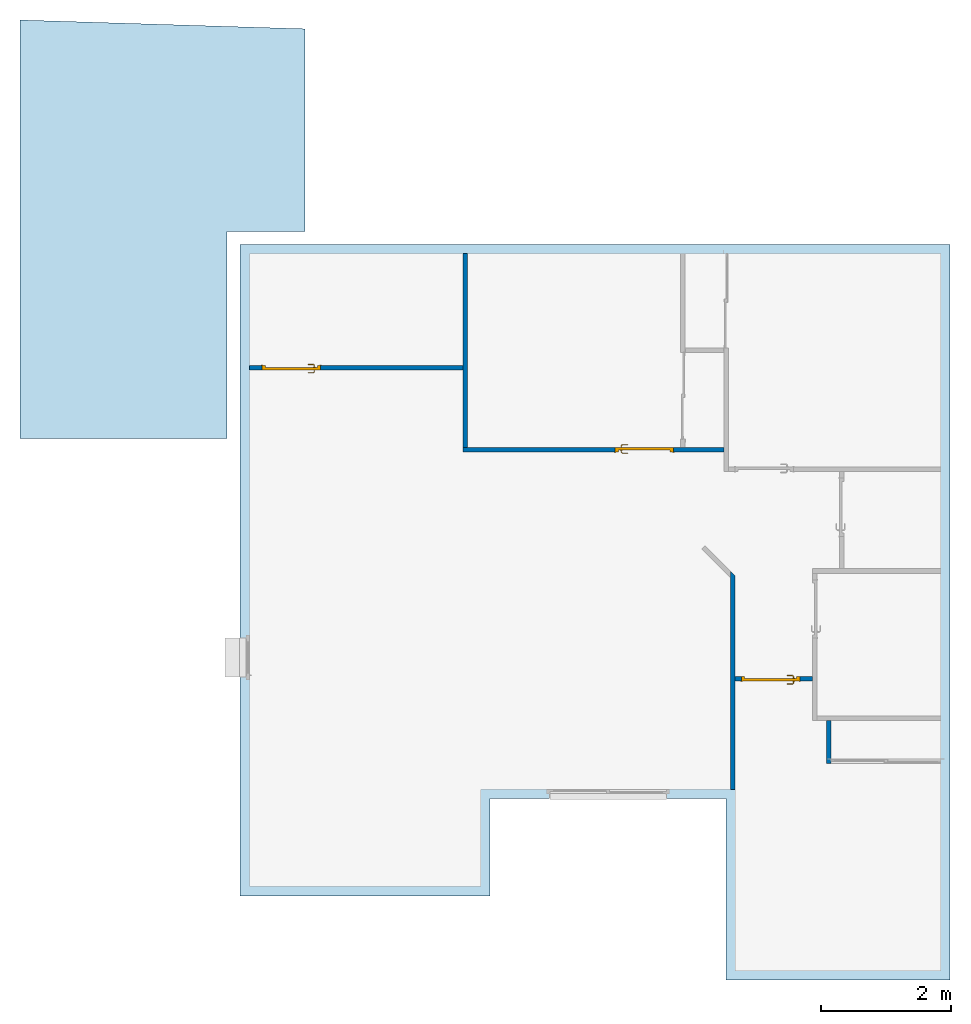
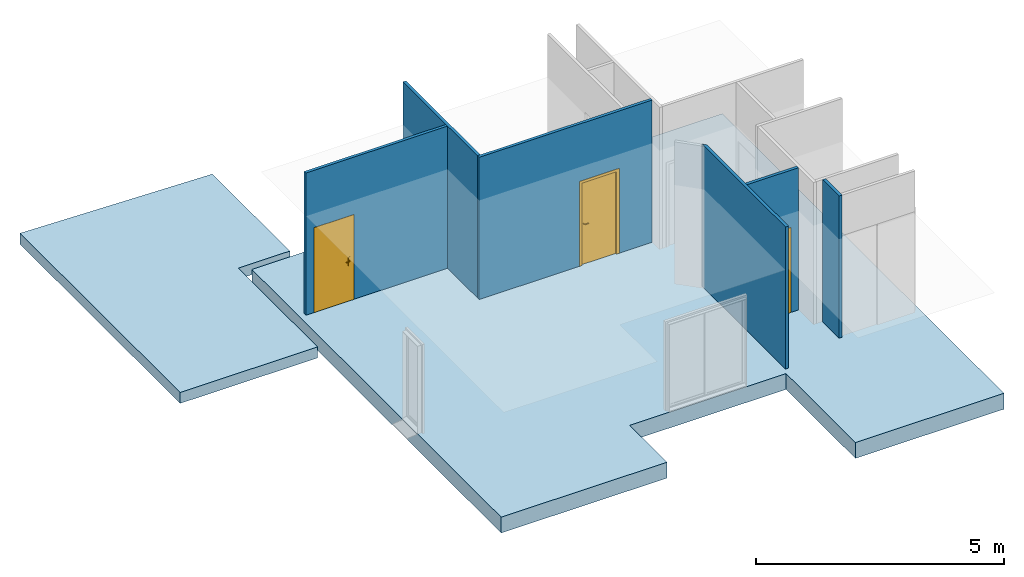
# One storey, part 1 of 7: 6 walls, 3 doors, 2 slabs, 6 openings.
"""IFC2X3 building model written with IfcOpenShell, lengths in centimetres."""

from ifc_helpers import new_model, entity, si_unit, converted_unit, derived_unit, direction, frame, frame_2d, origin, origin_2d_with_axis, place, context, subcontext, project, spatial, polyline, rectangle, outline, extrude, faceted_brep, source, transform, mapped, material, material_list, layer, layer_set, layer_usage, type_object, type_shapes, element, fill, save


model = new_model("IFC2X3")

# Units and contexts
model_context = context("Model", 3, precision=0.001, world=origin(), true_north=direction((6.123031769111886e-17, 1.0)))
body_context = subcontext(model_context, "Body", "Model", "MODEL_VIEW")
ifc_project = project(units=[si_unit("LENGTHUNIT", "METRE", prefix="CENTI"), si_unit("AREAUNIT", "SQUARE_METRE"), si_unit("VOLUMEUNIT", "CUBIC_METRE"), converted_unit("PLANEANGLEUNIT", "DEGREE", entity("IfcRatioMeasure", 0.017453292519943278), si_unit("PLANEANGLEUNIT", "RADIAN"), dimensions=[0, 0, 0, 0, 0, 0, 0]), si_unit("MASSUNIT", "GRAM", prefix="KILO"), derived_unit("MASSDENSITYUNIT", [(si_unit("MASSUNIT", "GRAM", prefix="KILO"), 1), (si_unit("LENGTHUNIT", "METRE"), -3)]), derived_unit("MOMENTOFINERTIAUNIT", [(si_unit("LENGTHUNIT", "METRE"), 4)]), si_unit("TIMEUNIT", "SECOND"), si_unit("FREQUENCYUNIT", "HERTZ"), si_unit("THERMODYNAMICTEMPERATUREUNIT", "DEGREE_CELSIUS"), derived_unit("THERMALTRANSMITTANCEUNIT", [(si_unit("MASSUNIT", "GRAM", prefix="KILO"), 1), (si_unit("THERMODYNAMICTEMPERATUREUNIT", "KELVIN"), -1), (si_unit("TIMEUNIT", "SECOND"), -3)]), derived_unit("THERMALCONDUCTANCEUNIT", [(si_unit("MASSUNIT", "GRAM", prefix="KILO"), 1), (si_unit("LENGTHUNIT", "METRE"), 1), (si_unit("THERMODYNAMICTEMPERATUREUNIT", "KELVIN"), -1), (si_unit("TIMEUNIT", "SECOND"), -3)]), derived_unit("VOLUMETRICFLOWRATEUNIT", [(si_unit("LENGTHUNIT", "METRE"), 3), (si_unit("TIMEUNIT", "SECOND"), -1)]), derived_unit("MASSFLOWRATEUNIT", [(si_unit("MASSUNIT", "GRAM", prefix="KILO"), 1), (si_unit("TIMEUNIT", "SECOND"), -1)]), derived_unit("ROTATIONALFREQUENCYUNIT", [(si_unit("TIMEUNIT", "SECOND"), -1)]), si_unit("ELECTRICCURRENTUNIT", "AMPERE"), si_unit("ELECTRICVOLTAGEUNIT", "VOLT"), si_unit("POWERUNIT", "WATT"), si_unit("FORCEUNIT", "NEWTON", prefix="KILO"), si_unit("ILLUMINANCEUNIT", "LUX"), si_unit("LUMINOUSFLUXUNIT", "LUMEN"), si_unit("LUMINOUSINTENSITYUNIT", "CANDELA"), derived_unit("USERDEFINED", [(si_unit("MASSUNIT", "GRAM", prefix="KILO"), -1), (si_unit("LENGTHUNIT", "METRE"), -2), (si_unit("TIMEUNIT", "SECOND"), 3), (si_unit("LUMINOUSFLUXUNIT", "LUMEN"), 1)]), derived_unit("USERDEFINED", [(si_unit("MASSUNIT", "GRAM", prefix="KILO"), 1), (si_unit("LENGTHUNIT", "METRE"), 3), (si_unit("TIMEUNIT", "SECOND"), -3), (si_unit("ELECTRICCURRENTUNIT", "AMPERE"), -2)]), derived_unit("USERDEFINED", [(si_unit("LENGTHUNIT", "METRE"), 2), (si_unit("TIMEUNIT", "SECOND"), -2)]), derived_unit("SOUNDPOWERUNIT", [(si_unit("MASSUNIT", "GRAM", prefix="KILO"), 1), (si_unit("LENGTHUNIT", "METRE"), 2), (si_unit("TIMEUNIT", "SECOND"), -3)]), derived_unit("SOUNDPRESSUREUNIT", [(si_unit("MASSUNIT", "GRAM", prefix="KILO"), 1), (si_unit("LENGTHUNIT", "METRE"), -1), (si_unit("TIMEUNIT", "SECOND"), -2)]), derived_unit("LINEARVELOCITYUNIT", [(si_unit("LENGTHUNIT", "METRE"), 1), (si_unit("TIMEUNIT", "SECOND"), -1)]), si_unit("PRESSUREUNIT", "PASCAL"), derived_unit("USERDEFINED", [(si_unit("LENGTHUNIT", "METRE"), -2), (si_unit("MASSUNIT", "GRAM", prefix="KILO"), 1), (si_unit("TIMEUNIT", "SECOND"), -2)]), derived_unit("LINEARFORCEUNIT", [(si_unit("MASSUNIT", "GRAM", prefix="KILO"), 1), (si_unit("LENGTHUNIT", "METRE"), 1), (si_unit("TIMEUNIT", "SECOND"), -2), (si_unit("LENGTHUNIT", "METRE"), -1)]), derived_unit("PLANARFORCEUNIT", [(si_unit("MASSUNIT", "GRAM", prefix="KILO"), 1), (si_unit("LENGTHUNIT", "METRE"), 1), (si_unit("TIMEUNIT", "SECOND"), -2), (si_unit("LENGTHUNIT", "METRE"), -2)]), derived_unit("SPECIFICHEATCAPACITYUNIT", [(si_unit("LENGTHUNIT", "METRE"), 2), (si_unit("TIMEUNIT", "SECOND"), -2), (si_unit("THERMODYNAMICTEMPERATUREUNIT", "KELVIN"), -1)]), derived_unit("VAPORPERMEABILITYUNIT", [(si_unit("TIMEUNIT", "SECOND"), 1), (si_unit("LENGTHUNIT", "METRE"), -1)]), derived_unit("DYNAMICVISCOSITYUNIT", [(si_unit("MASSUNIT", "GRAM", prefix="KILO"), 1), (si_unit("LENGTHUNIT", "METRE"), -1), (si_unit("TIMEUNIT", "SECOND"), -1)]), derived_unit("THERMALEXPANSIONCOEFFICIENTUNIT", [(si_unit("THERMODYNAMICTEMPERATUREUNIT", "KELVIN"), -1)])], contexts=[model_context])

# Site, building, storey
site_placement = place(None, origin())
site = spatial("IfcSite", under=ifc_project, at=site_placement, Name="Default", CompositionType="ELEMENT")
building_placement = place(site_placement, origin())
building = spatial("IfcBuilding", under=site, at=building_placement, CompositionType="ELEMENT")
storey_placement = place(building_placement, origin())
storey = spatial("IfcBuildingStorey", under=building, at=storey_placement, Name="1_Rez-de-chaussée", CompositionType="ELEMENT", Elevation=0.0)

# Slab
ifc_material_1 = material(Name="Maçonnerie - Béton")
ifc_layer_1 = layer(ifc_material_1, 12.0)
ifc_material_2 = material(Name="Terre")
ifc_layer_2 = layer(ifc_material_2, 15.0)
ifc_layer_set_1 = layer_set([ifc_layer_1, ifc_layer_2], Name="Sol:Dallage partie garage")
ifc_layer_usage_1 = layer_usage(ifc_layer_set_1, "AXIS3", "POSITIVE", 0.0)
slab_type_1 = type_object("IfcSlabType", Name="Sol:Dallage partie garage", PredefinedType="FLOOR", material=ifc_layer_set_1)
slab_1_placement = place(storey_placement, origin())
element("IfcSlab", 1, at=slab_1_placement, inside=storey, type_object=slab_type_1, material=ifc_layer_usage_1, Name="Sol:Dallage partie garage", ObjectType="Sol:Dallage partie garage", PredefinedType="FLOOR", context=body_context, shape_type="SweptSolid", body=[
    extrude(outline(polyline([(-319.8298123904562, -253.3333333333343), (326.477806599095, -253.3333333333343), (312.84144296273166, 186.66666666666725), (0.1701876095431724, 186.66666666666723), (0.17018760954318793, 66.66666666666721), (-319.8298123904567, 66.66666666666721), (-319.8298123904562, -253.3333333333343)])), frame((-786.7351104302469, 376.4764582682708, -2.0), z_axis=(0.0, 0.0, -1.0), x_axis=(0.0, 1.0, 0.0)), (0.0, 0.0, 1.0), 27.0),
])

# Slab, openings
ifc_layer_3 = layer(ifc_material_1, 12.0)
ifc_material_3 = material(Name="Isolant rigide")
ifc_layer_4 = layer(ifc_material_3, 10.0)
ifc_material_4 = material(Name="Sable")
ifc_layer_5 = layer(ifc_material_4, 5.0)
ifc_material_5 = material(Name="Gravier")
ifc_layer_6 = layer(ifc_material_5, 12.0)
ifc_layer_set_2 = layer_set([ifc_layer_3, ifc_layer_4, ifc_layer_5, ifc_layer_6], Name="Sol:Dallage partie habitation")
ifc_layer_usage_2 = layer_usage(ifc_layer_set_2, "AXIS3", "POSITIVE", 0.0)
slab_type_2 = type_object("IfcSlabType", Name="Sol:Dallage partie habitation", PredefinedType="FLOOR", material=ifc_layer_set_2)
slab_2_placement = place(storey_placement, origin())
slab_2 = element("IfcSlab", 2, at=slab_2_placement, inside=storey, type_object=slab_type_2, material=ifc_layer_usage_2, Name="Sol:Dallage partie habitation", ObjectType="Sol:Dallage partie habitation", PredefinedType="FLOOR", context=body_context, shape_type="SweptSolid", body=[
    extrude(outline(polyline([(-548.0, 568.0), (-548.0, -568.0), (-202.0, -568.0), (-202.0, -288.0), (162.0, -288.0), (162.0, -438.0), (548.0, -438.0), (548.0, 568.0), (-548.0, 568.0)])), frame((-152.06844376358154, -211.3533541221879, 0.0), z_axis=(0.0, 0.0, -1.0), x_axis=(-1.0, 0.0, 0.0)), (0.0, 0.0, 1.0), 39.0),
])
opening_1_placement = place(slab_2_placement, frame((39.93155623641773, 46.64664587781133, 0.0)))
element("IfcOpeningElement", 3, at=opening_1_placement, cuts=slab_2, Name="Sol:Dallage partie habitation:2", ObjectType="Opening", context=body_context, shape_type="SweptSolid", body=[
    extrude(rectangle(XDim=15.000000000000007, YDim=15.000000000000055, at=origin_2d_with_axis()), frame((0.0, 0.0, 0.0), z_axis=(0.0, 0.0, -1.0), x_axis=(0.0, -1.0, 0.0)), (0.0, 0.0, 1.0), 39.0),
])
opening_2_placement = place(slab_2_placement, frame((-304.06844376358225, 46.64664587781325, 0.0)))
element("IfcOpeningElement", 4, at=opening_2_placement, cuts=slab_2, Name="Sol:Dallage partie habitation:3", ObjectType="Opening", context=body_context, shape_type="SweptSolid", body=[
    extrude(rectangle(XDim=15.000000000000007, YDim=15.000000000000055, at=origin_2d_with_axis()), frame((0.0, 0.0, 0.0), z_axis=(0.0, 0.0, -1.0), x_axis=(0.0, -1.0, 0.0)), (0.0, 0.0, 1.0), 39.0),
])

# Wall
ifc_material_6 = material(Name="Mur par défaut")
ifc_layer_7 = layer(ifc_material_6, 7.0)
ifc_layer_set_3 = layer_set([ifc_layer_7], Name="Mur de base:Int. plâtre 70 mm")
ifc_layer_usage_3 = layer_usage(ifc_layer_set_3, "AXIS2", "NEGATIVE", 3.4999999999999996)
wall_type = type_object("IfcWallType", Name="Mur de base:Int. plâtre 70 mm", PredefinedType="STANDARD", material=ifc_layer_set_3)
wall_1_placement = place(storey_placement, frame((-352.56844376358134, 342.6466458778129, 0.0), z_axis=(0.0, 0.0, 1.0), x_axis=(0.0, -1.0, 0.0)))
element("IfcWallStandardCase", 5, at=wall_1_placement, inside=storey, type_object=wall_type, material=ifc_layer_usage_3, Name="Mur de base:Int. plâtre 70 mm", ObjectType="Mur de base:Int. plâtre 70 mm", context=body_context, shape_type="SweptSolid", body=[
    extrude(rectangle(XDim=300.0000000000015, YDim=7.000000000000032, at=frame_2d((150.00000000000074, -6.439293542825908e-15), x_axis=(-1.0, 0.0))), origin(), (0.0, 0.0, 1.0), 350.0),
])

# Wall, opening, door
wall_2_placement = place(storey_placement, frame((-356.0684437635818, 39.146645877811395, 0.0)))
wall_2 = element("IfcWallStandardCase", 6, at=wall_2_placement, inside=storey, type_object=wall_type, material=ifc_layer_usage_3, Name="Mur de base:Int. plâtre 70 mm", ObjectType="Mur de base:Int. plâtre 70 mm", context=body_context, shape_type="SweptSolid", body=[
    extrude(rectangle(XDim=403.0000000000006, YDim=7.000000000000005, at=frame_2d((201.5000000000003, -1.7763568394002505e-15), x_axis=(-1.0, 0.0))), origin(), (0.0, 0.0, 1.0), 350.0),
])
opening_3_placement = place(wall_2_placement, frame((235.0, -3.50000000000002, 0.0)))
opening_3 = element("IfcOpeningElement", 7, at=opening_3_placement, cuts=wall_2, Name="Int. Simple:PP (0.83m x 2.04m):1", ObjectType="Opening", context=body_context, shape_type="SweptSolid", body=[
    extrude(rectangle(XDim=207.49999999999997, YDim=90.0, at=frame_2d((103.74999999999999, 45.0), x_axis=(1.0, 0.0))), frame((0.0, 0.0, 0.0), z_axis=(0.0, 1.0, 0.0), x_axis=(0.0, 0.0, 1.0)), (0.0, 0.0, 1.0), 6.999999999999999),
])
ifc_material_7 = material(Name="Finition Peinture - Blanc satiné")
ifc_material_8 = material(Name="Bois - Panneau de porte")
ifc_material_9 = material(Name="Bois - Cadre de porte")
ifc_material_list = material_list([ifc_material_7, ifc_material_8, ifc_material_9])
door_style = type_object("IfcDoorStyle", Name="Int. Simple:PP (0.83m x 2.04m)", ConstructionType="NOTDEFINED", OperationType="NOTDEFINED", ParameterTakesPrecedence=False, Sizeable=False, material=ifc_material_list)
shared_shape = source(origin(), body_context, "Body", "Brep", [
    faceted_brep([(89.50000000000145, -0.5000000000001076, 87.0), (89.50000000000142, -0.5000000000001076, 108.0), (88.53527618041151, -0.5000000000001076, 108.39960169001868), (87.50000000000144, -0.5000000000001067, 108.5358983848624), (86.46472381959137, -0.5000000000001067, 108.39960169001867), (85.5000000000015, -0.5000000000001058, 108.0), (85.50000000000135, -0.5000000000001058, 87.0), (86.46472381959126, -0.5000000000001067, 86.6003983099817), (87.50000000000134, -0.5000000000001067, 86.46410161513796), (88.5352761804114, -0.5000000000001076, 86.6003983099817), (89.50000000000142, 0.0, 108.0), (89.5000000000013, 0.0, 87.0), (88.5352761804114, 0.0, 86.6003983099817), (87.50000000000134, 0.0, 86.46410161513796), (86.46472381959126, 0.0, 86.6003983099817), (85.50000000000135, 0.0, 87.0), (85.50000000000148, 0.0, 108.0), (86.46472381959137, 0.0, 108.39960169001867), (87.50000000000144, 0.0, 108.5358983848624), (88.53527618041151, 0.0, 108.39960169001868)], [[[0, 1, 2, 3, 4, 5, 6, 7, 8, 9]], [[10, 11, 12, 13, 14, 15, 16, 17, 18, 19]], [[9, 12, 11, 0]], [[8, 13, 12, 9]], [[7, 14, 13, 8]], [[7, 6, 15, 14]], [[15, 6, 5, 16]], [[4, 17, 16, 5]], [[3, 18, 17, 4]], [[2, 19, 18, 3]], [[2, 1, 10, 19]], [[11, 10, 1, 0]]]),
    faceted_brep([(89.50000000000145, 4.0, 87.0), (89.50000000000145, 4.0, 108.0), (88.53527618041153, 4.0, 108.39960169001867), (87.50000000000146, 4.0, 108.5358983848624), (86.4647238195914, 4.0, 108.39960169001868), (85.50000000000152, 4.0, 108.0), (85.50000000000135, 4.0, 87.0), (86.46472381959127, 4.0, 86.6003983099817), (87.50000000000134, 4.0, 86.46410161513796), (88.5352761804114, 4.0, 86.60039830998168), (87.50000000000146, 4.499999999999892, 108.5358983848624), (88.53527618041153, 4.499999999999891, 108.39960169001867), (89.50000000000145, 4.499999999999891, 108.0), (89.5000000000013, 4.499999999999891, 87.0), (88.5352761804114, 4.499999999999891, 86.60039830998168), (87.50000000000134, 4.499999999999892, 86.46410161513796), (86.46472381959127, 4.4999999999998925, 86.6003983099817), (85.50000000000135, 4.4999999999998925, 87.0), (85.5000000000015, 4.4999999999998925, 108.0), (86.4647238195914, 4.4999999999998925, 108.39960169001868)], [[[0, 1, 2, 3, 4, 5, 6, 7, 8, 9]], [[10, 11, 12, 13, 14, 15, 16, 17, 18, 19]], [[4, 19, 18, 5]], [[3, 10, 19, 4]], [[2, 11, 10, 3]], [[2, 1, 12, 11]], [[13, 12, 1, 0]], [[9, 14, 13, 0]], [[8, 15, 14, 9]], [[7, 16, 15, 8]], [[7, 6, 17, 16]], [[17, 6, 5, 18]]]),
    faceted_brep([(87.2974701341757, -0.5000000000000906, 100.77804408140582), (87.7025298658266, -0.5000000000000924, 100.77804408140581), (88.1000000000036, -0.500000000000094, 100.69999999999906), (88.10000000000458, -0.500000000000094, 99.29999999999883), (87.70252986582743, -0.5000000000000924, 99.221955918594), (87.2974701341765, -0.5000000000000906, 99.22195591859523), (86.89999999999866, -0.5000000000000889, 99.30000000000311), (86.89999999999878, -0.5000000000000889, 100.69999999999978), (87.70252986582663, -3.100457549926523, 100.77804408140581), (88.10000000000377, -3.265095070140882, 100.69999999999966), (87.29747013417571, -2.932676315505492, 100.77804408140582), (85.92986024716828, -4.300286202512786, 100.77804408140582), (86.09764148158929, -4.705345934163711, 100.77804408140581), (86.89999999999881, -2.768038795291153, 100.69999999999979), (86.89999999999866, -2.7680387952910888, 99.30000000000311), (87.2974701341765, -2.93267631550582, 99.22195591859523), (87.70252986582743, -3.1004575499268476, 99.221955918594), (86.09764148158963, -4.7053459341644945, 99.221955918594), (85.92986024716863, -4.300286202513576, 99.22195591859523), (88.10000000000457, -3.2650950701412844, 99.29999999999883), (86.26227900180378, -5.102816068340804, 100.69999999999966), (85.76522272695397, -3.902816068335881, 100.69999999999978), (85.76522272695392, -3.902816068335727, 99.30000000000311), (86.26227900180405, -5.102816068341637, 99.29999999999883), (77.49813593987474, -5.102816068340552, 100.6999999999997), (77.49813593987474, -4.705345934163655, 100.77804408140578), (77.49813593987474, -4.30028620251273, 100.7780440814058), (77.49813593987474, -3.902816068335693, 100.69999999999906), (77.49813593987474, -3.902816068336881, 99.30000000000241), (77.49813593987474, -4.300286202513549, 99.2219559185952), (77.49813593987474, -4.705345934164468, 99.22195591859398), (77.49813593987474, -5.1028160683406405, 99.29999999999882), (81.71399809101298, -4.502816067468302, 100.7878686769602), (82.26923027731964, -5.102816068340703, 100.69999999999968), (81.63167933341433, -3.902816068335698, 100.6999999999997), (81.63167933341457, -3.902816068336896, 99.30000000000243), (81.71399811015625, -4.502816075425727, 99.21213132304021), (82.26923104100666, -5.102816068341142, 99.29999999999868)], [[[0, 1, 2, 3, 4, 5, 6, 7]], [[2, 1, 8, 9]], [[1, 0, 10, 11, 12, 8]], [[0, 7, 13, 10]], [[14, 13, 7, 6]], [[5, 15, 14, 6]], [[5, 4, 16, 17, 18, 15]], [[3, 19, 16, 4]], [[9, 19, 3, 2]], [[9, 8, 12, 20]], [[10, 13, 21, 11]], [[22, 21, 13, 14]], [[14, 15, 18, 22]], [[16, 19, 23, 17]], [[20, 23, 19, 9]], [[24, 25, 26, 27, 28, 29, 30, 31]], [[32, 25, 33]], [[33, 25, 24]], [[33, 20, 12]], [[11, 34, 32]], [[34, 11, 21]], [[27, 26, 34]], [[32, 26, 25]], [[32, 34, 26]], [[32, 33, 12]], [[11, 32, 12]], [[21, 22, 35, 28, 27, 34]], [[36, 29, 35]], [[30, 36, 37]], [[18, 35, 22]], [[29, 28, 35]], [[30, 37, 31]], [[37, 17, 23]], [[36, 17, 37]], [[36, 18, 17]], [[36, 35, 18]], [[29, 36, 30]], [[23, 20, 33, 24, 31, 37]]]),
    faceted_brep([(87.29747013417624, 4.499999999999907, 99.22195591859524), (87.70252986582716, 4.499999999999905, 99.22195591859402), (88.1000000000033, 4.499999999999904, 99.29999999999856), (88.10000000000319, 4.499999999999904, 100.69999999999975), (87.70252986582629, 4.499999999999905, 100.77804408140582), (87.29747013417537, 4.499999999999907, 100.77804408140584), (86.89999999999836, 4.499999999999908, 100.69999999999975), (86.89999999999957, 4.499999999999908, 99.30000000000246), (86.89999999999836, 6.748520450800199, 100.69999999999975), (86.89999999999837, 6.748520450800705, 99.30000000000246), (87.29747013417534, 6.913157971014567, 100.77804408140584), (87.70252986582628, 7.0809392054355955, 100.77804408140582), (86.08389061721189, 8.69957845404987, 100.77804408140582), (85.91610938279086, 8.294518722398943, 100.77804408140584), (88.10000000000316, 7.245576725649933, 100.69999999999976), (88.1000000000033, 7.245576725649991, 99.29999999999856), (87.70252986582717, 7.080939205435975, 99.22195591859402), (87.29747013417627, 6.91315797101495, 99.22195591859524), (85.91610938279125, 8.29451872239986, 99.22195591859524), (86.08389061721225, 8.699578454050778, 99.22195591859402), (85.75147186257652, 7.897048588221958, 100.69999999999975), (85.75147186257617, 7.897048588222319, 99.30000000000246), (86.2485281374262, 9.097048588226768, 100.69999999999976), (86.24852813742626, 9.09704858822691, 99.29999999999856), (77.49542163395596, 8.294518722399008, 100.77804408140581), (77.49542163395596, 8.699578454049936, 100.7780440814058), (77.49542163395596, 9.097048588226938, 100.69999999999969), (77.49542163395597, 9.097048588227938, 99.29999999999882), (77.49542163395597, 8.699578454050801, 99.22195591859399), (77.49542163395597, 8.29451872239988, 99.22195591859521), (77.49542163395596, 7.897048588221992, 99.30000000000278), (77.49542163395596, 7.8970485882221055, 100.69999999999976), (81.62344674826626, 7.897048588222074, 100.69999999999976), (81.62344794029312, 7.89704858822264, 99.3000000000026), (81.70576551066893, 8.497048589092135, 100.78786867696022), (82.25547942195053, 9.097048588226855, 100.69999999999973), (82.25547956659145, 9.097048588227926, 99.29999999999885), (81.70576548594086, 8.497048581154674, 99.21213132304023)], [[[0, 1, 2, 3, 4, 5, 6, 7]], [[8, 9, 7, 6]], [[5, 10, 8, 6]], [[5, 4, 11, 12, 13, 10]], [[3, 14, 11, 4]], [[14, 3, 2, 15]], [[2, 1, 16, 15]], [[1, 0, 17, 18, 19, 16]], [[0, 7, 9, 17]], [[20, 21, 9, 8]], [[8, 10, 13, 20]], [[14, 22, 12, 11]], [[23, 22, 14, 15]], [[15, 16, 19, 23]], [[17, 9, 21, 18]], [[24, 25, 26, 27, 28, 29, 30, 31]], [[21, 20, 32, 31, 30, 33]], [[34, 24, 32]], [[25, 34, 35]], [[13, 32, 20]], [[24, 31, 32]], [[25, 35, 26]], [[35, 12, 22]], [[34, 12, 35]], [[34, 13, 12]], [[34, 32, 13]], [[24, 34, 25]], [[22, 23, 36, 27, 26, 35]], [[37, 28, 36]], [[36, 28, 27]], [[36, 23, 19]], [[18, 33, 37]], [[33, 18, 21]], [[30, 29, 33]], [[37, 29, 28]], [[37, 33, 29]], [[37, 36, 19]], [[18, 37, 19]]]),
    faceted_brep([(93.50000000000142, 4.0, 204.0), (93.50000000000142, 4.0, 0.0), (10.500000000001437, 4.0, 0.0), (10.50000000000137, 4.0, 204.0), (93.50000000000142, 0.0, 204.0), (10.50000000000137, 0.0, 204.0), (10.500000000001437, 0.0, 0.0), (93.50000000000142, 0.0, 0.0)], [[[0, 1, 2, 3]], [[4, 5, 6, 7]], [[3, 5, 4, 0]], [[2, 6, 5, 3]], [[1, 7, 6, 2]], [[0, 4, 7, 1]]]),
    faceted_brep([(97.0, 0.0, 0.0), (93.50000000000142, 0.0, 0.0), (93.50000000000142, 4.0, 0.0), (92.0, 4.0, 0.0), (92.0, 7.0, 0.0), (97.0, 7.0, 0.0), (97.0, 7.0, 207.5000000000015), (97.0, 0.0, 207.50000000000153), (92.0, 7.0, 202.4999999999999), (12.0, 7.0, 202.4999999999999), (12.0, 7.0, 0.0), (7.0, 7.0, 0.0), (7.0, 7.0, 207.5000000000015), (92.0, 4.0, 202.4999999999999), (93.50000000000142, 4.0, 204.0), (10.500000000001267, 4.0, 204.0), (10.50000000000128, 4.0, 0.0), (12.0, 4.0, 0.0), (12.0, 4.0, 202.4999999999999), (93.5000000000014, 0.0, 204.0), (7.0, 0.0, 207.50000000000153), (7.0, 0.0, 0.0), (10.500000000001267, 0.0, 0.0), (10.500000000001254, 0.0, 204.0)], [[[0, 1, 2, 3, 4, 5]], [[5, 6, 7, 0]], [[4, 8, 9, 10, 11, 12, 6, 5]], [[3, 13, 8, 4]], [[2, 14, 15, 16, 17, 18, 13, 3]], [[1, 19, 14, 2]], [[0, 7, 20, 21, 22, 23, 19, 1]], [[12, 11, 21, 20]], [[21, 11, 10, 17, 16, 22]], [[18, 17, 10, 9]], [[23, 22, 16, 15]], [[6, 12, 20, 7]], [[13, 18, 9, 8]], [[19, 23, 15, 14]]]),
    faceted_brep([(95.5000000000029, 7.0, 0.0), (95.5000000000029, 7.499999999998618, 0.0), (98.50000000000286, 7.499999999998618, 0.0), (98.50000000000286, 7.0, 0.0), (98.50000000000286, 7.0, 209.0), (5.5000000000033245, 7.0, 209.0), (5.5000000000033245, 7.0, 0.0), (8.500000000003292, 7.0, 0.0), (8.500000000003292, 7.0, 206.0), (95.5000000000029, 7.0, 206.0), (98.50000000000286, 7.499999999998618, 209.0), (95.5000000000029, 7.499999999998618, 206.0), (8.500000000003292, 7.499999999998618, 206.0), (8.500000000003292, 7.499999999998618, 0.0), (5.5000000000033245, 7.499999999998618, 0.0), (5.5000000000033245, 7.499999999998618, 209.0)], [[[0, 1, 2, 3]], [[3, 4, 5, 6, 7, 8, 9, 0]], [[2, 10, 4, 3]], [[1, 11, 12, 13, 14, 15, 10, 2]], [[0, 9, 11, 1]], [[7, 6, 14, 13]], [[8, 7, 13, 12]], [[15, 14, 6, 5]], [[10, 15, 5, 4]], [[9, 8, 12, 11]]]),
    faceted_brep([(98.50000000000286, -0.5000000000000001, 0.0), (98.50000000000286, -0.5000000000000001, 209.0), (5.5000000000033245, -0.5000000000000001, 209.0), (5.5000000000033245, -0.5000000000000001, 0.0), (8.500000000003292, -0.5000000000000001, 0.0), (8.500000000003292, -0.5000000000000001, 206.0), (95.5000000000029, -0.5000000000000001, 206.0), (95.5000000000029, -0.5000000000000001, 0.0), (98.50000000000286, 0.0, 0.0), (98.50000000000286, 0.0, 209.0), (95.5000000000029, 0.0, 0.0), (95.5000000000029, 0.0, 206.0), (8.500000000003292, 0.0, 206.0), (8.500000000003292, 0.0, 0.0), (5.5000000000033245, 0.0, 0.0), (5.5000000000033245, 0.0, 209.0)], [[[0, 1, 2, 3, 4, 5, 6, 7]], [[8, 9, 1, 0]], [[10, 11, 12, 13, 14, 15, 9, 8]], [[7, 6, 11, 10]], [[5, 4, 13, 12]], [[15, 14, 3, 2]], [[9, 15, 2, 1]], [[6, 5, 12, 11]], [[4, 3, 14, 13]], [[7, 10, 8, 0]]]),
])
type_shapes(door_style, [shared_shape])
door_1_placement = place(opening_3_placement, frame((97.0, 7.0, 0.0), z_axis=(0.0, 0.0, 1.0), x_axis=(-1.0, 0.0, 0.0)))
door_1 = element("IfcDoor", 8, at=door_1_placement, inside=storey, type_object=door_style, material=ifc_material_list, Name="Int. Simple:PP (0.83m x 2.04m)", ObjectType="Int. Simple:PP (0.83m x 2.04m)", OverallHeight=207.49999999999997, OverallWidth=90.0, context=body_context, shape_type="MappedRepresentation", body=[
    mapped(shared_shape, transform((0.0, 0.0, 0.0), scale=1.0)),
])
fill(opening_3, door_1)

# Wall
wall_3_placement = place(storey_placement, frame((60.431556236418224, -148.50916235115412, 0.0), z_axis=(0.0, 0.0, 1.0), x_axis=(0.0, -1.0, 0.0)))
element("IfcWallStandardCase", 9, at=wall_3_placement, inside=storey, type_object=wall_type, material=ifc_layer_usage_3, Name="Mur de base:Int. plâtre 70 mm", ObjectType="Mur de base:Int. plâtre 70 mm", context=body_context, shape_type="SweptSolid", body=[
    extrude(outline(polyline([(336.84419177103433, -3.499999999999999), (336.84419177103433, 3.5000000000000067), (169.34419177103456, 3.500000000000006), (162.3441917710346, 3.5000000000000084), (7.0, 3.500000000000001), (0.0, -3.499999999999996), (9.899494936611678, -3.4999999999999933), (336.84419177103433, -3.499999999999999)])), origin(), (0.0, 0.0, 1.0), 350.0),
])

# Wall, opening, door
wall_4_placement = place(storey_placement, frame((183.9315562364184, -314.35335412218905, 0.0), z_axis=(0.0, 0.0, 1.0), x_axis=(-1.0, 0.0, 0.0)))
wall_4 = element("IfcWallStandardCase", 10, at=wall_4_placement, inside=storey, type_object=wall_type, material=ifc_layer_usage_3, Name="Mur de base:Int. plâtre 70 mm", ObjectType="Mur de base:Int. plâtre 70 mm", context=body_context, shape_type="SweptSolid", body=[
    extrude(rectangle(XDim=120.00000000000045, YDim=7.000000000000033, at=frame_2d((60.00000000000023, 9.769962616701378e-15), x_axis=(-1.0, 0.0))), origin(), (0.0, 0.0, 1.0), 350.0),
])
opening_4_placement = place(wall_4_placement, frame((20.0, -3.5000000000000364, 0.0)))
opening_4 = element("IfcOpeningElement", 11, at=opening_4_placement, cuts=wall_4, Name="Int. Simple:PP (0.83m x 2.04m):1", ObjectType="Opening", context=body_context, shape_type="SweptSolid", body=[
    extrude(rectangle(XDim=207.49999999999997, YDim=90.0, at=frame_2d((103.74999999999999, 45.0), x_axis=(1.0, 0.0))), frame((0.0, 0.0, 0.0), z_axis=(0.0, 1.0, 0.0), x_axis=(0.0, 0.0, 1.0)), (0.0, 0.0, 1.0), 6.999999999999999),
])
door_2_placement = place(opening_4_placement, frame((97.0, 7.0, 0.0), z_axis=(0.0, 0.0, 1.0), x_axis=(-1.0, 0.0, 0.0)))
door_2 = element("IfcDoor", 12, at=door_2_placement, inside=storey, type_object=door_style, material=ifc_material_list, Name="Int. Simple:PP (0.83m x 2.04m)", ObjectType="Int. Simple:PP (0.83m x 2.04m)", OverallHeight=207.49999999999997, OverallWidth=90.00000000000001, context=body_context, shape_type="MappedRepresentation", body=[
    mapped(shared_shape, transform((0.0, 0.0, 0.0), scale=1.0)),
])
fill(opening_4, door_2)

# Wall, opening
wall_5_placement = place(storey_placement, frame((208.43155623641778, -378.35335412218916, 0.0), z_axis=(0.0, 0.0, 1.0), x_axis=(0.0, -1.0, 0.0)))
wall_5 = element("IfcWallStandardCase", 13, at=wall_5_placement, inside=storey, type_object=wall_type, material=ifc_layer_usage_3, Name="Mur de base:Int. plâtre 70 mm", ObjectType="Mur de base:Int. plâtre 70 mm", context=body_context, shape_type="SweptSolid", body=[
    extrude(rectangle(XDim=67.00000000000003, YDim=7.000000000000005, at=frame_2d((33.500000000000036, -1.0880185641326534e-14), x_axis=(-1.0, 0.0))), origin(), (0.0, 0.0, 1.0), 350.0),
])
opening_5_placement = place(wall_5_placement, origin())
element("IfcOpeningElement", 14, at=opening_5_placement, cuts=wall_5, Name="Mur de base:Int. plâtre 70 mm", ObjectType="Opening", context=body_context, shape_type="SweptSolid", body=[
    extrude(rectangle(XDim=249.9999999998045, YDim=6.999999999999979, at=frame_2d((-2.708944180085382e-14, 0.0), x_axis=(0.0, 1.0))), frame((63.50000000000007, 3.4999999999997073, 125.0), z_axis=(0.0, 1.0, 0.0), x_axis=(1.0, 0.0, 0.0)), (0.0, 0.0, 1.0), 170.0),
])

# Wall, opening, door
wall_6_placement = place(storey_placement, frame((-686.0684437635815, 166.14664587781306, 0.0)))
wall_6 = element("IfcWallStandardCase", 15, at=wall_6_placement, inside=storey, type_object=wall_type, material=ifc_layer_usage_3, Name="Mur de base:Int. plâtre 70 mm", ObjectType="Mur de base:Int. plâtre 70 mm", context=body_context, shape_type="SweptSolid", body=[
    extrude(rectangle(XDim=329.9999999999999, YDim=7.000000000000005, at=frame_2d((164.99999999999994, -1.354472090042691e-14), x_axis=(1.0, 0.0))), origin(), (0.0, 0.0, 1.0), 350.0),
])
opening_6_placement = place(wall_6_placement, frame((110.0, 3.4999999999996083, 0.0)))
opening_6 = element("IfcOpeningElement", 16, at=opening_6_placement, cuts=wall_6, Name="Int. Simple:PP (0.83m x 2.04m):1", ObjectType="Opening", context=body_context, shape_type="SweptSolid", body=[
    extrude(rectangle(XDim=207.49999999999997, YDim=90.0, at=frame_2d((103.74999999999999, 45.0), x_axis=(1.0, 0.0))), frame((0.0, 0.0, 0.0), z_axis=(0.0, -1.0, 0.0), x_axis=(0.0, 0.0, 1.0)), (0.0, 0.0, 1.0), 6.999999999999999),
])
door_3_placement = place(opening_6_placement, frame((-97.0, -7.0, 0.0)))
door_3 = element("IfcDoor", 17, at=door_3_placement, inside=storey, type_object=door_style, material=ifc_material_list, Name="Int. Simple:PP (0.83m x 2.04m)", ObjectType="Int. Simple:PP (0.83m x 2.04m)", OverallHeight=207.49999999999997, OverallWidth=90.0, context=body_context, shape_type="MappedRepresentation", body=[
    mapped(shared_shape, transform((0.0, 0.0, 0.0), scale=1.0)),
])
fill(opening_6, door_3)

save(model, "model.ifc")
